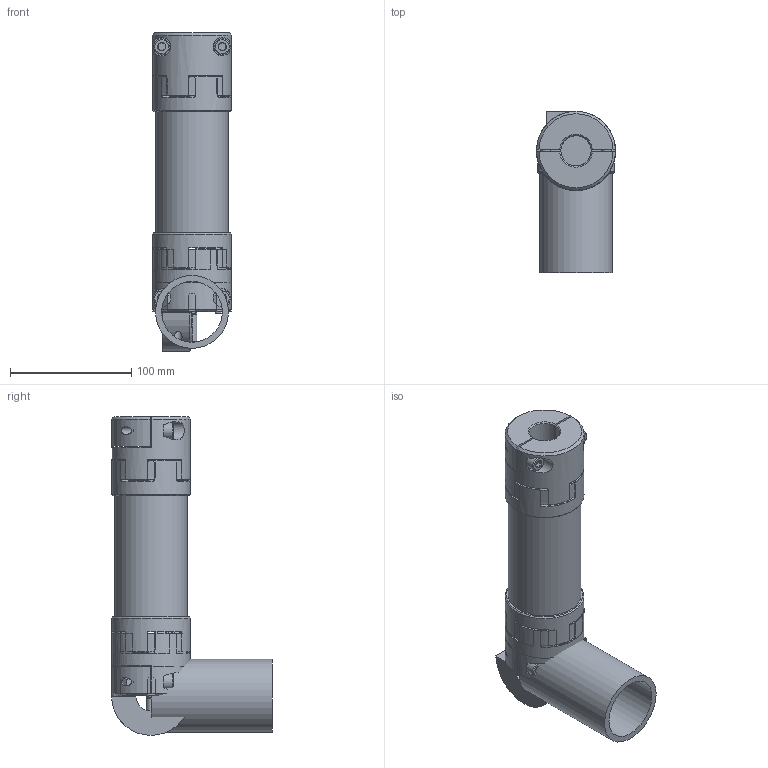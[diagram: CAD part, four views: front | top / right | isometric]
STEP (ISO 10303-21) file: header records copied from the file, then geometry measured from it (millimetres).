
FILE_DESCRIPTION( ( 'Unknown' ), '1' );
FILE_NAME( 'K:/Konstruktion/DRE/DRE28.stp', 'Unknown', ( 'Unknown' ), ( 'Unknown' ), 'XStep 1.0', 'Unknown', ' ' );
FILE_SCHEMA( ( 'automotive_design' ) );
Length unit declared in the file: millimetre
Products named in the file (7): Assem1; KBE 2H - 28_Nabe; KBE 2H - 28_Klemme; Zahnkranz EK28_Standard; ISO EN DIN 4762 M8x25; R60; Aufnahme R60
Bounding box: 65 x 132.5 x 262.5 mm (x, y, z)
Volume: 819089 mm3; surface area: 235943.1 mm2
Topology: 19 solids, 19 shells, 769 faces, 1856 edges, 1181 vertices
Faces by surface type: cylinder 261, cone 254, plane 190, torus 64
Full cylindrical faces by diameter (mm): 5 x24, 6.647 x6, 7 x5, 8 x10, 9 x6, 13 x5, 16 x3, 25 x3, 30 x6, 50 x5, 60 x2, 65 x6
Entity records: 8278 total; most frequent: CARTESIAN_POINT 2187, DIRECTION 1184, ORIENTED_EDGE 1092, EDGE_CURVE 546, AXIS2_PLACEMENT_3D 545, VERTEX_POINT 368, EDGE_LOOP 306, CIRCLE 290
